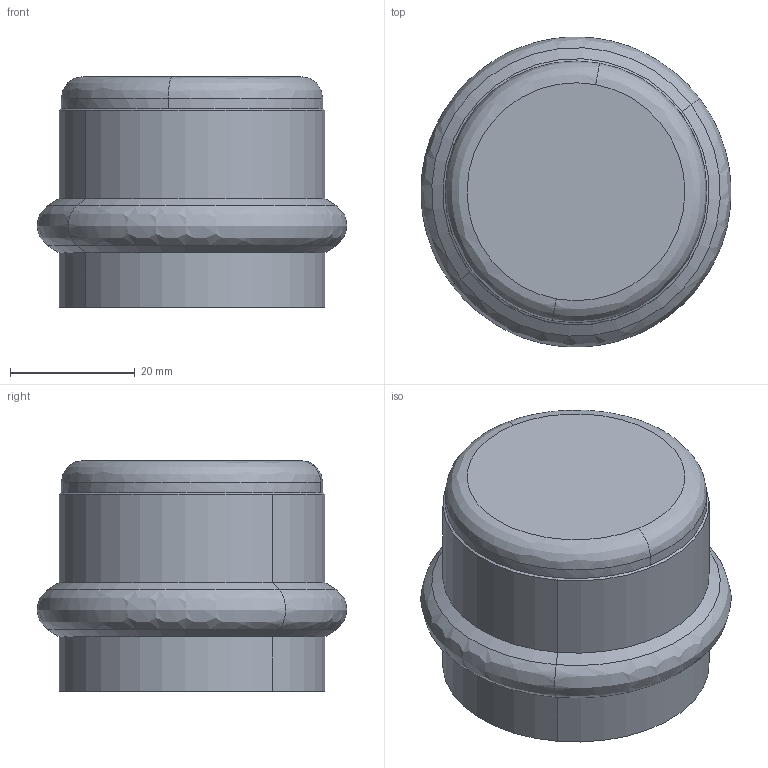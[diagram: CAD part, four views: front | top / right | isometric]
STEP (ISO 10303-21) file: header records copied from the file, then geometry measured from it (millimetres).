
FILE_DESCRIPTION(('STEP AP214'),'1');
FILE_NAME('pim0004611.stp','2017-05-10T06:43:51',('cad-pim'),('TransMagic, Inc.'),'TMR12sp0','TransMagic R12',' ');
FILE_SCHEMA(('AUTOMOTIVE_DESIGN'));
Length unit declared in the file: millimetre
Products named in the file (1): pim0004611 (1)
Bounding box: 49.7 x 49.7 x 36.99 mm (x, y, z)
Volume: 20171.2 mm3; surface area: 11878.1 mm2
Topology: 1 solids, 1 shells, 21 faces, 42 edges, 24 vertices
Faces by surface type: bspline 21
Entity records: 1308 total; most frequent: CARTESIAN_POINT 419, STYLED_ITEM 88, PRESENTATION_STYLE_ASSIGNMENT 88, COLOUR_RGB 88, ORIENTED_EDGE 84, DIRECTION 64, EDGE_CURVE 42, CURVE_STYLE 42
